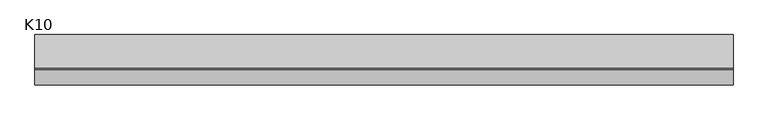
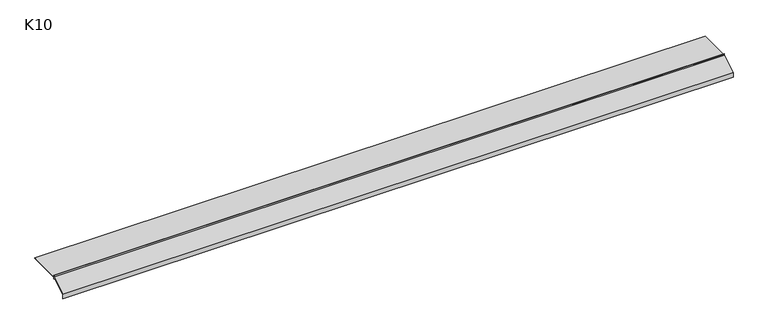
"""IFC4 building model written with IfcOpenShell, lengths in millimetres: proxy geometry, K10 Profil okapowy prosty bez rynny : K10."""

from ifc_helpers import new_model, si_unit, frame, origin, place, context, project, spatial, polyline, outline, extrude, source, transform, mapped, element, save


def k10_195fb894(model_context):
    return source(origin(), model_context, "Body", "SweptSolid", [
        extrude(outline(polyline([(-1.25, -3.0), (-1.25, 0.0), (0.0, 0.0), (0.0, -3.0), (65.0, -3.0), (65.0, -4.25), (0.0, -4.25), (0.0, -7.25), (-1.25, -7.25), (-1.25, -4.4598861), (-30.0, -21.8057194), (-30.0, -29.17), (-31.25, -30.42), (-31.25, -21.1), (-1.25, -3.0)])), frame((0.0, 0.0, 0.0), z_axis=(1.0, 0.0, 0.0), x_axis=(0.0, 1.0, 0.0)), (0.0, 0.0, 1.0), 1331.2075221),
    ])


if __name__ == "__main__":
    model = new_model("IFC4")
    model_context = context("Model", 3, world=origin())
    ifc_project = project(units=[si_unit("LENGTHUNIT", "METRE", prefix="MILLI")], contexts=[model_context])
    site = spatial("IfcSite", under=ifc_project)
    building = spatial("IfcBuilding", under=site)
    placement = place(None, origin())
    k10_shape = k10_195fb894(model_context)
    element("IfcBuildingElementProxy", 1, Name="K10 Profil okapowy prosty bez rynny : K10", ObjectType="K10 Profil okapowy prosty bez rynny : K10", at=placement, inside=building, context=model_context, shape_type="MappedRepresentation", body=[
        mapped(k10_shape, transform((0.0, 0.0, 0.0), x_axis=(1.0, 0.0, 0.0), y_axis=(0.0, 1.0, 0.0), z_axis=(0.0, 0.0, 1.0))),
    ])
    save(model, "model.ifc")
